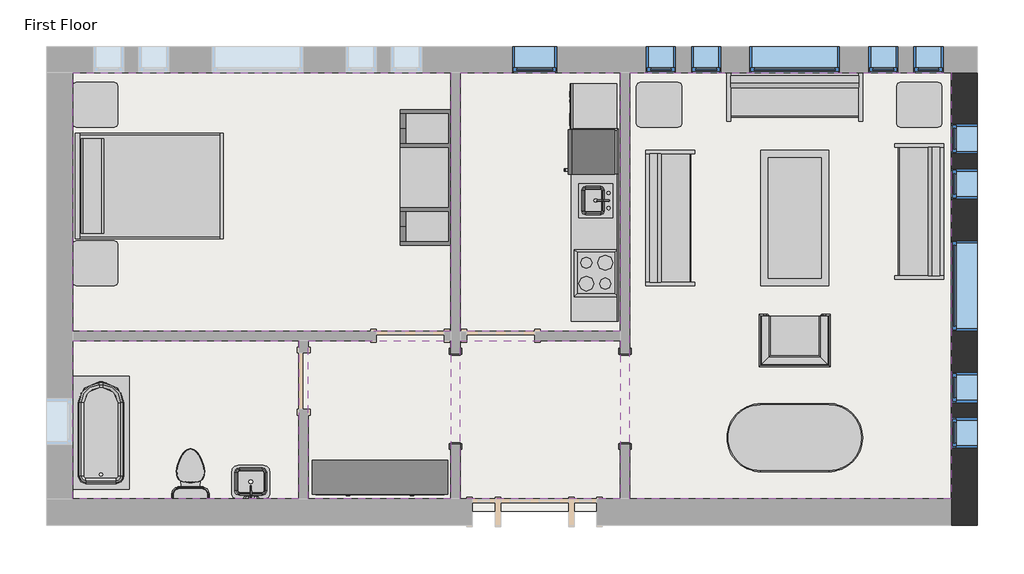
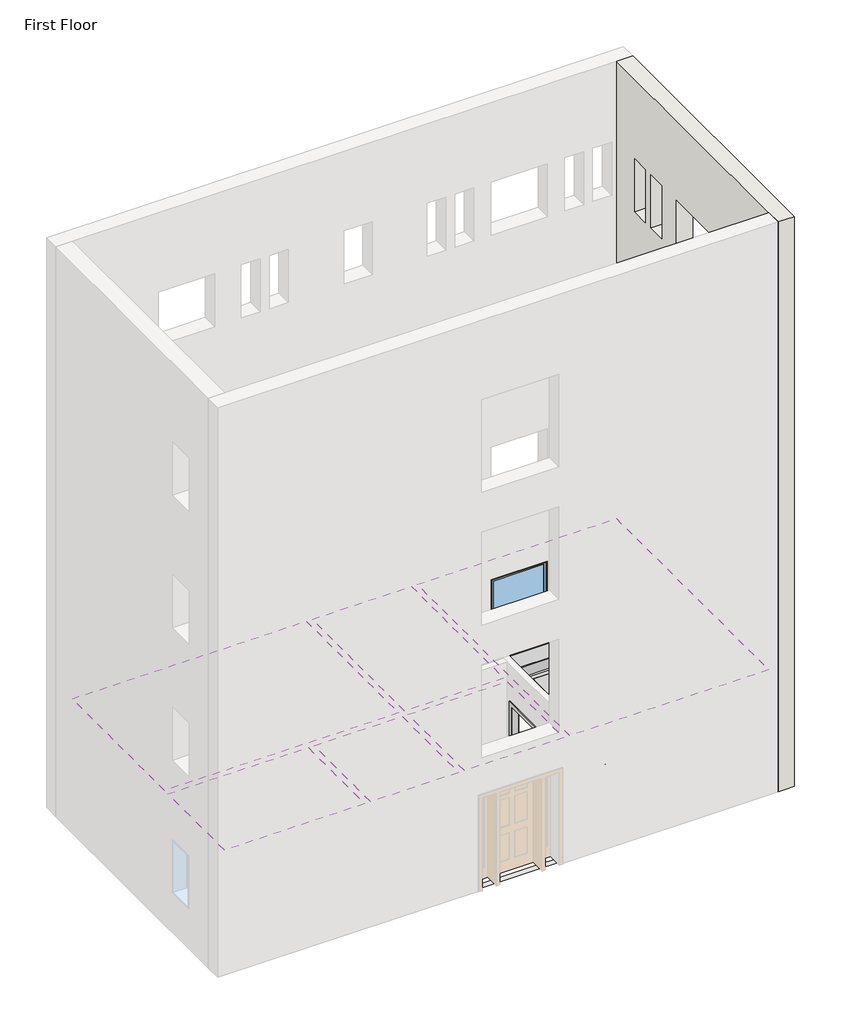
# One storey, part 2 of 2: 14 furniture elements, 11 windows, 6 coverings, 6 proxies, 4 flow terminals, 1 slab, 1 wall.
"""IFC4 building model written with IfcOpenShell, lengths in millimetres."""

from ifc_helpers import new_model, si_unit, frame, origin, place, context, project, spatial, polyline, outline, extrude, faceted_brep, transform, mapped, element, save
from components import proxy_dfcd9396, proxy_3c49123c, proxy_7a545507, proxy_f44482cc, proxy_ec3341c2, flow_terminal_41332a36, flow_terminal_62a433f7, toilet_domestic_3d_toilet_domestic_3d_f7549cf7, toilet_domestic_3d_toilet_domestic_3d_183bbd19, tub_rectangular_3d_tub_rectangular_3d_15036965, furniture_096e7f55, chair_corbu_chair_corbu_2764bdef, furniture_6db689a5, furniture_7c473f12, furniture_cf0b6580, furniture_a4ffab56, furniture_cd93a443, furniture_2c34a4f9, furniture_3a588284, window_da97879f, window_d61ef850, window_60baf983, window_6eb97611

model = new_model("IFC4")

# Units and contexts
model_context = context("Model", 3, world=origin())
ifc_project = project(units=[si_unit("LENGTHUNIT", "METRE", prefix="MILLI")], contexts=[model_context])

# Site, building, storey
site = spatial("IfcSite", under=ifc_project)
building = spatial("IfcBuilding", under=site)
storey = spatial("IfcBuildingStorey", under=building, Name="First Floor", Elevation=0.0)

# Proxies
placement = place(None, origin())
proxy_shape = proxy_dfcd9396(model_context)
element("IfcBuildingElementProxy", 1, Name="Cook Top-4 Unit2 : 22\" x 20\"", ObjectType="Cook Top-4 Unit2 : 22\" x 20\"", at=placement, inside=storey, context=model_context, shape_type="MappedRepresentation", body=[
    mapped(proxy_shape, transform((-4167.1589563, 7568.5224391, 0.0), x_axis=(0.0, 1.0000000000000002, 0.0), y_axis=(-1.0000000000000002, 0.0, 0.0), z_axis=(0.0, 0.0, 1.0))),
])
proxy_2_shape = proxy_3c49123c(model_context)
element("IfcBuildingElementProxy", 2, Name="Dishwasher : 24\" x 24\" x 34\"", ObjectType="Dishwasher : 24\" x 24\" x 34\"", at=placement, inside=storey, context=model_context, shape_type="MappedRepresentation", body=[
    mapped(proxy_2_shape, transform((-4459.0085211, 9434.1049706, 0.0), x_axis=(0.0, 1.0000000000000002, 0.0), y_axis=(-1.0000000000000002, 0.0, 0.0), z_axis=(0.0, 0.0, 1.0))),
])
proxy_3_shape = proxy_7a545507(model_context)
element("IfcBuildingElementProxy", 3, Name="Kitchenette - Medium : 8'6\"", ObjectType="Kitchenette - Medium : 8'6\"", at=placement, inside=storey, context=model_context, shape_type="MappedRepresentation", body=[
    mapped(proxy_3_shape, transform((-3862.3589563, 8197.4847342, 0.0), x_axis=(0.0, 1.0000000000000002, 0.0), y_axis=(-1.0000000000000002, 0.0, 0.0), z_axis=(0.0, 0.0, 1.0))),
])
proxy_4_shape = proxy_f44482cc(model_context)
element("IfcBuildingElementProxy", 4, Name="Opening-Cased : 48\" x 84\"", ObjectType="Opening-Cased : 48\" x 84\"", at=placement, inside=storey, context=model_context, shape_type="MappedRepresentation", body=[
    mapped(proxy_4_shape, transform((-3773.4589563, 5882.4203434, 0.0), x_axis=(0.0, 1.0, 0.0), y_axis=(-1.0, 0.0, 0.0), z_axis=(0.0, 0.0, 1.0))),
])
element("IfcBuildingElementProxy", 5, Name="Opening-Cased : 48\" x 84\"", ObjectType="Opening-Cased : 48\" x 84\"", at=placement, inside=storey, context=model_context, shape_type="MappedRepresentation", body=[
    mapped(proxy_4_shape, transform((-6059.4589563, 5866.04303, 0.0), x_axis=(0.0, -1.0, 0.0), y_axis=(1.0, 0.0, 0.0), z_axis=(0.0, 0.0, 1.0))),
])
proxy_5_shape = proxy_ec3341c2(model_context)
element("IfcBuildingElementProxy", 6, Name="Refrigerator : 24\" x 25\" LH", ObjectType="Refrigerator : 24\" x 25\" LH", at=placement, inside=storey, context=model_context, shape_type="MappedRepresentation", body=[
    mapped(proxy_5_shape, transform((-4212.8079278, 9200.4724391, 0.0), x_axis=(0.0, 1.0000000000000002, 0.0), y_axis=(-1.0000000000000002, 0.0, 0.0), z_axis=(0.0, 0.0, 1.0))),
])

# Coverings
element("IfcCovering", 7, ObjectType="GWB on Mtl. Stud", at=placement, inside=storey, context=model_context, shape_type="SweptSolid", body=[
    extrude(outline(polyline([(-11217.2464563, 10270.0191867), (-6122.9589563, 10270.0191867), (-6122.9589563, 6787.0441867), (-11217.2464563, 6787.0441867), (-11217.2464563, 10270.0191867)])), frame((0.0, 0.0, 2590.8), z_axis=(0.0, 0.0, 1.0), x_axis=(1.0, 0.0, 0.0)), (0.0, 0.0, 1.0), 107.95),
])
element("IfcCovering", 8, ObjectType="GWB on Mtl. Stud", at=placement, inside=storey, context=model_context, shape_type="SweptSolid", body=[
    extrude(outline(polyline([(-5995.9589563, 6787.0441867), (-5995.9589563, 10270.0191867), (-3836.9589563, 10270.0191867), (-3836.9589563, 6787.0441867), (-5995.9589563, 6787.0441867)])), frame((0.0, 0.0, 2590.8), z_axis=(0.0, 0.0, 1.0), x_axis=(1.0, 0.0, 0.0)), (0.0, 0.0, 1.0), 107.95),
])
element("IfcCovering", 9, ObjectType="GWB on Mtl. Stud", at=placement, inside=storey, context=model_context, shape_type="SweptSolid", body=[
    extrude(outline(polyline([(-3709.9589563, 4526.4441867), (-3709.9589563, 10270.0191867), (622.3285437, 10270.0191867), (622.3285437, 4526.4441867), (-3709.9589563, 4526.4441867)])), frame((0.0, 0.0, 2590.8), z_axis=(0.0, 0.0, 1.0), x_axis=(1.0, 0.0, 0.0)), (0.0, 0.0, 1.0), 107.95),
])
element("IfcCovering", 10, ObjectType="GWB on Mtl. Stud", at=placement, inside=storey, context=model_context, shape_type="SweptSolid", body=[
    extrude(outline(polyline([(-3836.9589563, 4526.4441867), (-5995.9589563, 4526.4441867), (-5995.9589563, 6660.0441867), (-3836.9589563, 6660.0441867), (-3836.9589563, 4526.4441867)])), frame((0.0, 0.0, 2590.8), z_axis=(0.0, 0.0, 1.0), x_axis=(1.0, 0.0, 0.0)), (0.0, 0.0, 1.0), 107.95),
])
element("IfcCovering", 11, ObjectType="GWB on Mtl. Stud", at=placement, inside=storey, context=model_context, shape_type="SweptSolid", body=[
    extrude(outline(polyline([(-8169.2464563, 6660.0441867), (-8169.2464563, 4526.4441867), (-11217.2464563, 4526.4441867), (-11217.2464563, 6660.0441867), (-8169.2464563, 6660.0441867)])), frame((0.0, 0.0, 2590.8), z_axis=(0.0, 0.0, 1.0), x_axis=(1.0, 0.0, 0.0)), (0.0, 0.0, 1.0), 107.95),
])
element("IfcCovering", 12, ObjectType="GWB on Mtl. Stud", at=placement, inside=storey, context=model_context, shape_type="SweptSolid", body=[
    extrude(outline(polyline([(-6122.9589563, 4526.4441867), (-8042.2464563, 4526.4441867), (-8042.2464563, 6660.0441867), (-6122.9589563, 6660.0441867), (-6122.9589563, 4526.4441867)])), frame((0.0, 0.0, 2590.8), z_axis=(0.0, 0.0, 1.0), x_axis=(1.0, 0.0, 0.0)), (0.0, 0.0, 1.0), 107.95),
])

# Flow terminals
flow_terminal_shape = flow_terminal_41332a36(model_context)
element("IfcFlowTerminal", 13, ObjectType="Sink Kitchen-Island : 18\" x 18\"", at=placement, inside=storey, context=model_context, shape_type="MappedRepresentation", body=[
    mapped(flow_terminal_shape, transform((-4169.5043574, 8530.7331986, -14.4), x_axis=(0.0, 1.0000000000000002, 0.0), y_axis=(-1.0000000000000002, 0.0, 0.0), z_axis=(0.0, 0.0, 1.0))),
])
flow_terminal_2_shape = flow_terminal_62a433f7(model_context)
element("IfcFlowTerminal", 14, ObjectType="Sink Vanity-Square : 20\" x 18\"", at=placement, inside=storey, context=model_context, shape_type="MappedRepresentation", body=[
    mapped(flow_terminal_2_shape, transform((-8801.2572158, 4706.5895878, 0.0), x_axis=(-1.0, 0.0, 0.0), y_axis=(0.0, -1.0, 0.0), z_axis=(0.0, 0.0, 1.0))),
])
toilet_domestic_3d_toilet_domestic_3d_shape = toilet_domestic_3d_toilet_domestic_3d_f7549cf7(model_context)
toilet_domestic_3d_toilet_domestic_3d_2_shape = toilet_domestic_3d_toilet_domestic_3d_183bbd19(model_context)
element("IfcFlowTerminal", 15, ObjectType="Toilet-Domestic-3D : Toilet-Domestic-3D", at=placement, inside=storey, context=model_context, shape_type="MappedRepresentation", body=[
    mapped(toilet_domestic_3d_toilet_domestic_3d_shape, transform((-9629.7464563, 4894.7441867, 0.0), x_axis=(-1.0, 0.0, 0.0), y_axis=(0.0, -1.0, 0.0), z_axis=(0.0, 0.0, 1.0))),
    mapped(toilet_domestic_3d_toilet_domestic_3d_2_shape, transform((-9629.7464563, 4894.7441867, 0.0), x_axis=(-1.0, 0.0, 0.0), y_axis=(0.0, -1.0, 0.0), z_axis=(0.0, 0.0, 1.0))),
])
tub_rectangular_3d_tub_rectangular_3d_shape = tub_rectangular_3d_tub_rectangular_3d_15036965(model_context)
element("IfcFlowTerminal", 16, ObjectType="Tub-Rectangular-3D : Tub-Rectangular-3D", at=placement, inside=storey, context=model_context, shape_type="MappedRepresentation", body=[
    mapped(tub_rectangular_3d_tub_rectangular_3d_shape, transform((-11393.4589563, 5765.6346554, 0.0), x_axis=(0.0, 1.0, 0.0), y_axis=(-1.0, 0.0, 0.0), z_axis=(0.0, 0.0, 1.0))),
])

# Furniture
furniture_shape = furniture_096e7f55(model_context)
element("IfcFurniture", 17, ObjectType="Bed-Shaker : Double 56\" x 78\"", at=placement, inside=storey, context=model_context, shape_type="MappedRepresentation", body=[
    mapped(furniture_shape, transform((-11172.0857802, 8763.4816867, 0.0), x_axis=(0.0, 1.0, 0.0), y_axis=(-1.0, 0.0, 0.0), z_axis=(0.0, 0.0, 1.0))),
])
chair_corbu_chair_corbu_shape = chair_corbu_chair_corbu_2764bdef(model_context)
element("IfcFurniture", 18, ObjectType="Chair-Corbu : Chair-Corbu", at=placement, inside=storey, context=model_context, shape_type="MappedRepresentation", body=[
    mapped(chair_corbu_chair_corbu_shape, transform((-914.0851858, 7126.8212359, 0.0), x_axis=(-1.0, 0.0, 0.0), y_axis=(0.0, -1.0, 0.0), z_axis=(0.0, 0.0, 1.0))),
])
furniture_2_shape = furniture_6db689a5(model_context)
element("IfcFurniture", 19, ObjectType="Counter Top w Sink Hole : 24\" Depth", at=placement, inside=storey, context=model_context, shape_type="MappedRepresentation", body=[
    mapped(furniture_2_shape, transform((-3862.3589563, 8121.2847342, -14.4), x_axis=(0.0, 1.0000000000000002, 0.0), y_axis=(-1.0000000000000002, 0.0, 0.0), z_axis=(0.0, 0.0, 1.0))),
])
furniture_3_shape = furniture_7c473f12(model_context)
element("IfcFurniture", 20, ObjectType="Dresser : 72\" x 60\" x 18\"", at=placement, inside=storey, context=model_context, shape_type="MappedRepresentation", body=[
    mapped(furniture_3_shape, transform((-6806.2656965, 5181.7071408, 0.0), x_axis=(1.0, 0.0, 0.0), y_axis=(0.0, 1.0, 0.0), z_axis=(0.0, 0.0, 1.0))),
])
furniture_4_shape = furniture_cf0b6580(model_context)
element("IfcFurniture", 21, ObjectType="Entertainment Center : 72\" x 72\" x 24\"", at=placement, inside=storey, context=model_context, shape_type="MappedRepresentation", body=[
    mapped(furniture_4_shape, transform((-6021.3589563, 8857.1441867, 0.0), x_axis=(0.0, -1.0, 0.0), y_axis=(1.0, 0.0, 0.0), z_axis=(0.0, 0.0, 1.0))),
])
furniture_5_shape = furniture_a4ffab56(model_context)
element("IfcFurniture", 22, ObjectType="Sofa : 72\"", at=placement, inside=storey, context=model_context, shape_type="MappedRepresentation", body=[
    mapped(furniture_5_shape, transform((-3017.704858, 8242.2611949, 0.0), x_axis=(0.0, 1.0, 0.0), y_axis=(-1.0, 0.0, 0.0), z_axis=(0.0, 0.0, 1.0))),
])
element("IfcFurniture", 23, ObjectType="Sofa : 72\"", at=placement, inside=storey, context=model_context, shape_type="MappedRepresentation", body=[
    mapped(furniture_5_shape, transform((-1557.8294481, 9801.5748071, 0.0), x_axis=(1.0, 0.0, 0.0), y_axis=(0.0, 1.0, 0.0), z_axis=(0.0, 0.0, 1.0))),
])
element("IfcFurniture", 24, ObjectType="Sofa : 72\"", at=placement, inside=storey, context=model_context, shape_type="MappedRepresentation", body=[
    mapped(furniture_5_shape, transform((42.7869453, 8470.3146785, 0.0), x_axis=(0.0, -1.0, 0.0), y_axis=(1.0, 0.0, 0.0), z_axis=(0.0, 0.0, 1.0))),
])
furniture_6_shape = furniture_cd93a443(model_context)
element("IfcFurniture", 25, ObjectType="Table-Coffee : 36\" x 72\" x 18\"", at=placement, inside=storey, context=model_context, shape_type="MappedRepresentation", body=[
    mapped(furniture_6_shape, transform((-1392.2478785, 8294.36592, 0.0), x_axis=(0.0, 1.0, 0.0), y_axis=(-1.0, 0.0, 0.0), z_axis=(0.0, 0.0, 1.0))),
])
furniture_7_shape = furniture_2c34a4f9(model_context)
element("IfcFurniture", 26, ObjectType="Table-Dining Oval : 36\" x 72\"", at=placement, inside=storey, context=model_context, shape_type="MappedRepresentation", body=[
    mapped(furniture_7_shape, transform((-1085.6392842, 5710.0425473, 0.0), x_axis=(1.0, 0.0, 0.0), y_axis=(0.0, 1.0, 0.0), z_axis=(0.0, 0.0, 1.0))),
])
furniture_8_shape = furniture_3a588284(model_context)
element("IfcFurniture", 27, ObjectType="Table-End : 24\" x 24\"", at=placement, inside=storey, context=model_context, shape_type="MappedRepresentation", body=[
    mapped(furniture_8_shape, transform((-119.5925866, 9684.2316867, 0.0), x_axis=(1.0, 0.0, 0.0), y_axis=(0.0, 1.0, 0.0), z_axis=(0.0, 0.0, 1.0))),
])
element("IfcFurniture", 28, ObjectType="Table-End : 24\" x 24\"", at=placement, inside=storey, context=model_context, shape_type="MappedRepresentation", body=[
    mapped(furniture_8_shape, transform((-11220.9800866, 7550.6316867, 0.0), x_axis=(1.0, 0.0, 0.0), y_axis=(0.0, 1.0, 0.0), z_axis=(0.0, 0.0, 1.0))),
])
element("IfcFurniture", 29, ObjectType="Table-End : 24\" x 24\"", at=placement, inside=storey, context=model_context, shape_type="MappedRepresentation", body=[
    mapped(furniture_8_shape, transform((-11220.9800866, 9684.2316867, 0.0), x_axis=(1.0, 0.0, 0.0), y_axis=(0.0, 1.0, 0.0), z_axis=(0.0, 0.0, 1.0))),
])
element("IfcFurniture", 30, ObjectType="Table-End : 24\" x 24\"", at=placement, inside=storey, context=model_context, shape_type="MappedRepresentation", body=[
    mapped(furniture_8_shape, transform((-3624.7925866, 9684.2316867, 0.0), x_axis=(1.0, 0.0, 0.0), y_axis=(0.0, 1.0, 0.0), z_axis=(0.0, 0.0, 1.0))),
])

# Slab
element("IfcSlab", 31, ObjectType="LW Concrete on Metal Deck", at=placement, inside=storey, context=model_context, shape_type="SweptSolid", body=[
    extrude(outline(polyline([(787.4285437, 10435.1191867), (787.4285437, 4361.3441867), (-11382.3464563, 4361.3441867), (-11382.3464563, 10435.1191867), (787.4285437, 10435.1191867)])), frame((0.0, 0.0, -104.775), z_axis=(0.0, 0.0, 1.0), x_axis=(1.0, 0.0, 0.0)), (0.0, 0.0, 1.0), 104.775),
])

# Wall
element("IfcWall", 32, ObjectType="Exterior - Brick on Mtl. Stud", at=placement, inside=storey, context=model_context, shape_type="Brep", body=[
    faceted_brep([(622.3285437, 10270.0191867, 13106.4), (622.3285437, 4526.4441867, 13106.4), (622.3285437, 4174.0191867, 13106.4), (974.7535437, 4174.0191867, 13106.4), (974.7535437, 10270.0191867, 13106.4), (622.3285437, 10270.0191867, 0.0), (622.3285437, 4526.4441867, 0.0), (622.3285437, 4361.3441867, 0.0), (622.3285437, 4174.0191867, 0.0), (622.3285437, 8007.8316867, 2133.6), (622.3285437, 6788.6316867, 2133.6), (622.3285437, 6788.6316867, 914.4), (622.3285437, 8007.8316867, 914.4), (622.3285437, 9582.6316867, 2133.6), (622.3285437, 9176.2316867, 2133.6), (622.3285437, 9176.2316867, 914.4), (622.3285437, 9582.6316867, 914.4), (622.3285437, 8973.0316867, 2133.6), (622.3285437, 8566.6316867, 2133.6), (622.3285437, 8566.6316867, 914.4), (622.3285437, 8973.0316867, 914.4), (622.3285437, 5213.8316867, 2133.6), (622.3285437, 5213.8316867, 914.4), (622.3285437, 5620.2316867, 914.4), (622.3285437, 5620.2316867, 2133.6), (622.3285437, 5823.4316867, 2133.6), (622.3285437, 5823.4316867, 914.4), (622.3285437, 6229.8316867, 914.4), (622.3285437, 6229.8316867, 2133.6), (622.3285437, 5823.4316867, 11277.6), (622.3285437, 5823.4316867, 10058.4), (622.3285437, 6229.8316867, 10058.4), (622.3285437, 6229.8316867, 11277.6), (622.3285437, 5213.8316867, 11277.6), (622.3285437, 5213.8316867, 10058.4), (622.3285437, 5620.2316867, 10058.4), (622.3285437, 5620.2316867, 11277.6), (622.3285437, 8973.0316867, 11277.6), (622.3285437, 8566.6316867, 11277.6), (622.3285437, 8566.6316867, 10058.4), (622.3285437, 8973.0316867, 10058.4), (622.3285437, 9582.6316867, 11277.6), (622.3285437, 9176.2316867, 11277.6), (622.3285437, 9176.2316867, 10058.4), (622.3285437, 9582.6316867, 10058.4), (622.3285437, 8007.8316867, 11277.6), (622.3285437, 6788.6316867, 11277.6), (622.3285437, 6788.6316867, 10058.4), (622.3285437, 8007.8316867, 10058.4), (622.3285437, 5823.4316867, 5181.6), (622.3285437, 5823.4316867, 3962.4), (622.3285437, 6229.8316867, 3962.4), (622.3285437, 6229.8316867, 5181.6), (622.3285437, 5213.8316867, 5181.6), (622.3285437, 5213.8316867, 3962.4), (622.3285437, 5620.2316867, 3962.4), (622.3285437, 5620.2316867, 5181.6), (622.3285437, 8973.0316867, 5181.6), (622.3285437, 8566.6316867, 5181.6), (622.3285437, 8566.6316867, 3962.4), (622.3285437, 8973.0316867, 3962.4), (622.3285437, 9582.6316867, 5181.6), (622.3285437, 9176.2316867, 5181.6), (622.3285437, 9176.2316867, 3962.4), (622.3285437, 9582.6316867, 3962.4), (622.3285437, 8007.8316867, 5181.6), (622.3285437, 6788.6316867, 5181.6), (622.3285437, 6788.6316867, 3962.4), (622.3285437, 8007.8316867, 3962.4), (622.3285437, 5823.4316867, 8229.6), (622.3285437, 5823.4316867, 7010.4), (622.3285437, 6229.8316867, 7010.4), (622.3285437, 6229.8316867, 8229.6), (622.3285437, 5213.8316867, 8229.6), (622.3285437, 5213.8316867, 7010.4), (622.3285437, 5620.2316867, 7010.4), (622.3285437, 5620.2316867, 8229.6), (622.3285437, 8973.0316867, 8229.6), (622.3285437, 8566.6316867, 8229.6), (622.3285437, 8566.6316867, 7010.4), (622.3285437, 8973.0316867, 7010.4), (622.3285437, 9582.6316867, 8229.6), (622.3285437, 9176.2316867, 8229.6), (622.3285437, 9176.2316867, 7010.4), (622.3285437, 9582.6316867, 7010.4), (622.3285437, 8007.8316867, 8229.6), (622.3285437, 6788.6316867, 8229.6), (622.3285437, 6788.6316867, 7010.4), (622.3285437, 8007.8316867, 7010.4), (974.7535437, 10270.0191867, 0.0), (974.7535437, 4174.0191867, 0.0), (974.7535437, 4361.3441867, 0.0), (974.7535437, 8007.8316867, 2133.6), (974.7535437, 8007.8316867, 914.4), (974.7535437, 6788.6316867, 914.4), (974.7535437, 6788.6316867, 2133.6), (974.7535437, 9582.6316867, 2133.6), (974.7535437, 9582.6316867, 914.4), (974.7535437, 9176.2316867, 914.4), (974.7535437, 9176.2316867, 2133.6), (974.7535437, 8973.0316867, 2133.6), (974.7535437, 8973.0316867, 914.4), (974.7535437, 8566.6316867, 914.4), (974.7535437, 8566.6316867, 2133.6), (974.7535437, 5213.8316867, 2133.6), (974.7535437, 5620.2316867, 2133.6), (974.7535437, 5620.2316867, 914.4), (974.7535437, 5213.8316867, 914.4), (974.7535437, 5823.4316867, 2133.6), (974.7535437, 6229.8316867, 2133.6), (974.7535437, 6229.8316867, 914.4), (974.7535437, 5823.4316867, 914.4), (974.7535437, 5823.4316867, 11277.6), (974.7535437, 6229.8316867, 11277.6), (974.7535437, 6229.8316867, 10058.4), (974.7535437, 5823.4316867, 10058.4), (974.7535437, 5213.8316867, 11277.6), (974.7535437, 5620.2316867, 11277.6), (974.7535437, 5620.2316867, 10058.4), (974.7535437, 5213.8316867, 10058.4), (974.7535437, 8973.0316867, 11277.6), (974.7535437, 8973.0316867, 10058.4), (974.7535437, 8566.6316867, 10058.4), (974.7535437, 8566.6316867, 11277.6), (974.7535437, 9582.6316867, 11277.6), (974.7535437, 9582.6316867, 10058.4), (974.7535437, 9176.2316867, 10058.4), (974.7535437, 9176.2316867, 11277.6), (974.7535437, 8007.8316867, 11277.6), (974.7535437, 8007.8316867, 10058.4), (974.7535437, 6788.6316867, 10058.4), (974.7535437, 6788.6316867, 11277.6), (974.7535437, 5823.4316867, 5181.6), (974.7535437, 6229.8316867, 5181.6), (974.7535437, 6229.8316867, 3962.4), (974.7535437, 5823.4316867, 3962.4), (974.7535437, 5213.8316867, 5181.6), (974.7535437, 5620.2316867, 5181.6), (974.7535437, 5620.2316867, 3962.4), (974.7535437, 5213.8316867, 3962.4), (974.7535437, 8973.0316867, 5181.6), (974.7535437, 8973.0316867, 3962.4), (974.7535437, 8566.6316867, 3962.4), (974.7535437, 8566.6316867, 5181.6), (974.7535437, 9582.6316867, 5181.6), (974.7535437, 9582.6316867, 3962.4), (974.7535437, 9176.2316867, 3962.4), (974.7535437, 9176.2316867, 5181.6), (974.7535437, 8007.8316867, 5181.6), (974.7535437, 8007.8316867, 3962.4), (974.7535437, 6788.6316867, 3962.4), (974.7535437, 6788.6316867, 5181.6), (974.7535437, 5823.4316867, 8229.6), (974.7535437, 6229.8316867, 8229.6), (974.7535437, 6229.8316867, 7010.4), (974.7535437, 5823.4316867, 7010.4), (974.7535437, 5213.8316867, 8229.6), (974.7535437, 5620.2316867, 8229.6), (974.7535437, 5620.2316867, 7010.4), (974.7535437, 5213.8316867, 7010.4), (974.7535437, 8973.0316867, 8229.6), (974.7535437, 8973.0316867, 7010.4), (974.7535437, 8566.6316867, 7010.4), (974.7535437, 8566.6316867, 8229.6), (974.7535437, 9582.6316867, 8229.6), (974.7535437, 9582.6316867, 7010.4), (974.7535437, 9176.2316867, 7010.4), (974.7535437, 9176.2316867, 8229.6), (974.7535437, 8007.8316867, 8229.6), (974.7535437, 8007.8316867, 7010.4), (974.7535437, 6788.6316867, 7010.4), (974.7535437, 6788.6316867, 8229.6), (787.4285437, 10270.0191867, 0.0), (787.4285437, 4174.0191867, 0.0), (787.4285437, 4361.3441867, 0.0)], [[[0, 1, 2, 3, 4]], [[5, 6, 7, 8, 2, 1, 0], [9, 10, 11, 12], [13, 14, 15, 16], [17, 18, 19, 20], [21, 22, 23, 24], [25, 26, 27, 28], [29, 30, 31, 32], [33, 34, 35, 36], [37, 38, 39, 40], [41, 42, 43, 44], [45, 46, 47, 48], [49, 50, 51, 52], [53, 54, 55, 56], [57, 58, 59, 60], [61, 62, 63, 64], [65, 66, 67, 68], [69, 70, 71, 72], [73, 74, 75, 76], [77, 78, 79, 80], [81, 82, 83, 84], [85, 86, 87, 88]], [[89, 4, 3, 90, 91], [92, 93, 94, 95], [96, 97, 98, 99], [100, 101, 102, 103], [104, 105, 106, 107], [108, 109, 110, 111], [112, 113, 114, 115], [116, 117, 118, 119], [120, 121, 122, 123], [124, 125, 126, 127], [128, 129, 130, 131], [132, 133, 134, 135], [136, 137, 138, 139], [140, 141, 142, 143], [144, 145, 146, 147], [148, 149, 150, 151], [152, 153, 154, 155], [156, 157, 158, 159], [160, 161, 162, 163], [164, 165, 166, 167], [168, 169, 170, 171]], [[5, 0, 4, 89, 172]], [[2, 8, 173, 90, 3]], [[93, 92, 9, 12]], [[94, 93, 12, 11]], [[95, 94, 11, 10]], [[92, 95, 10, 9]], [[97, 96, 13, 16]], [[98, 97, 16, 15]], [[99, 98, 15, 14]], [[96, 99, 14, 13]], [[101, 100, 17, 20]], [[102, 101, 20, 19]], [[103, 102, 19, 18]], [[100, 103, 18, 17]], [[22, 21, 104, 107]], [[23, 22, 107, 106]], [[24, 23, 106, 105]], [[21, 24, 105, 104]], [[26, 25, 108, 111]], [[27, 26, 111, 110]], [[28, 27, 110, 109]], [[25, 28, 109, 108]], [[172, 89, 91, 174]], [[8, 7, 174, 173]], [[174, 91, 90, 173]], [[7, 6, 5, 172, 174]], [[30, 29, 112, 115]], [[31, 30, 115, 114]], [[32, 31, 114, 113]], [[29, 32, 113, 112]], [[34, 33, 116, 119]], [[35, 34, 119, 118]], [[36, 35, 118, 117]], [[33, 36, 117, 116]], [[121, 120, 37, 40]], [[122, 121, 40, 39]], [[123, 122, 39, 38]], [[120, 123, 38, 37]], [[125, 124, 41, 44]], [[126, 125, 44, 43]], [[127, 126, 43, 42]], [[124, 127, 42, 41]], [[129, 128, 45, 48]], [[130, 129, 48, 47]], [[131, 130, 47, 46]], [[128, 131, 46, 45]], [[50, 49, 132, 135]], [[51, 50, 135, 134]], [[52, 51, 134, 133]], [[49, 52, 133, 132]], [[54, 53, 136, 139]], [[55, 54, 139, 138]], [[56, 55, 138, 137]], [[53, 56, 137, 136]], [[141, 140, 57, 60]], [[142, 141, 60, 59]], [[143, 142, 59, 58]], [[140, 143, 58, 57]], [[145, 144, 61, 64]], [[146, 145, 64, 63]], [[147, 146, 63, 62]], [[144, 147, 62, 61]], [[149, 148, 65, 68]], [[150, 149, 68, 67]], [[151, 150, 67, 66]], [[148, 151, 66, 65]], [[70, 69, 152, 155]], [[71, 70, 155, 154]], [[72, 71, 154, 153]], [[69, 72, 153, 152]], [[74, 73, 156, 159]], [[75, 74, 159, 158]], [[76, 75, 158, 157]], [[73, 76, 157, 156]], [[161, 160, 77, 80]], [[162, 161, 80, 79]], [[163, 162, 79, 78]], [[160, 163, 78, 77]], [[165, 164, 81, 84]], [[166, 165, 84, 83]], [[167, 166, 83, 82]], [[164, 167, 82, 81]], [[169, 168, 85, 88]], [[170, 169, 88, 87]], [[171, 170, 87, 86]], [[168, 171, 86, 85]]]),
])

# Windows
window_shape = window_da97879f(model_context)
element("IfcWindow", 33, ObjectType="Fixed : 16\" x 48\"", at=placement, inside=storey, context=model_context, shape_type="MappedRepresentation", body=[
    mapped(window_shape, transform((-3328.9589563, 10446.2316867, 0.0), x_axis=(-1.0, 0.0, 0.0), y_axis=(0.0, -1.0, 0.0), z_axis=(0.0, 0.0, 1.0))),
])
element("IfcWindow", 34, ObjectType="Fixed : 16\" x 48\"", at=placement, inside=storey, context=model_context, shape_type="MappedRepresentation", body=[
    mapped(window_shape, transform((-2719.3589563, 10446.2316867, 0.0), x_axis=(-1.0, 0.0, 0.0), y_axis=(0.0, -1.0, 0.0), z_axis=(0.0, 0.0, 1.0))),
])
element("IfcWindow", 35, ObjectType="Fixed : 16\" x 48\"", at=placement, inside=storey, context=model_context, shape_type="MappedRepresentation", body=[
    mapped(window_shape, transform((798.5410437, 9417.5316867, 0.0), x_axis=(0.0, 1.0, 0.0), y_axis=(-1.0, 0.0, 0.0), z_axis=(0.0, 0.0, 1.0))),
])
element("IfcWindow", 36, ObjectType="Fixed : 16\" x 48\"", at=placement, inside=storey, context=model_context, shape_type="MappedRepresentation", body=[
    mapped(window_shape, transform((798.5410437, 8807.9316867, 0.0), x_axis=(0.0, 1.0, 0.0), y_axis=(-1.0, 0.0, 0.0), z_axis=(0.0, 0.0, 1.0))),
])
window_2_shape = window_d61ef850(model_context)
element("IfcWindow", 37, ObjectType="Fixed : 16\" x 48\"", at=placement, inside=storey, context=model_context, shape_type="MappedRepresentation", body=[
    mapped(window_2_shape, transform((354.0410437, 10446.2316867, 0.0), x_axis=(1.0, 0.0, 0.0), y_axis=(0.0, 1.0, 0.0), z_axis=(0.0, 0.0, 1.0))),
])
element("IfcWindow", 38, ObjectType="Fixed : 16\" x 48\"", at=placement, inside=storey, context=model_context, shape_type="MappedRepresentation", body=[
    mapped(window_2_shape, transform((-255.5589563, 10446.2316867, 0.0), x_axis=(1.0, 0.0, 0.0), y_axis=(0.0, 1.0, 0.0), z_axis=(0.0, 0.0, 1.0))),
])
element("IfcWindow", 39, ObjectType="Fixed : 16\" x 48\"", at=placement, inside=storey, context=model_context, shape_type="MappedRepresentation", body=[
    mapped(window_2_shape, transform((798.5410437, 5378.9316867, 0.0), x_axis=(0.0, -1.0, 0.0), y_axis=(1.0, 0.0, 0.0), z_axis=(0.0, 0.0, 1.0))),
])
element("IfcWindow", 40, ObjectType="Fixed : 16\" x 48\"", at=placement, inside=storey, context=model_context, shape_type="MappedRepresentation", body=[
    mapped(window_2_shape, transform((798.5410437, 5988.5316867, 0.0), x_axis=(0.0, -1.0, 0.0), y_axis=(1.0, 0.0, 0.0), z_axis=(0.0, 0.0, 1.0))),
])
window_3_shape = window_60baf983(model_context)
element("IfcWindow", 41, ObjectType="Fixed : 24\" x 48\"", at=placement, inside=storey, context=model_context, shape_type="MappedRepresentation", body=[
    mapped(window_3_shape, transform((-5030.7589563, 10446.2316867, 0.0), x_axis=(-1.0, 0.0, 0.0), y_axis=(0.0, -1.0, 0.0), z_axis=(0.0, 0.0, 1.0))),
])
window_4_shape = window_6eb97611(model_context)
element("IfcWindow", 42, ObjectType="Fixed : 48\" x 48\"", at=placement, inside=storey, context=model_context, shape_type="MappedRepresentation", body=[
    mapped(window_4_shape, transform((-1525.5589563, 10446.2316867, 0.0), x_axis=(-1.0, 0.0, 0.0), y_axis=(0.0, -1.0, 0.0), z_axis=(0.0, 0.0, 1.0))),
])
element("IfcWindow", 43, ObjectType="Fixed : 48\" x 48\"", at=placement, inside=storey, context=model_context, shape_type="MappedRepresentation", body=[
    mapped(window_4_shape, transform((798.5410437, 7436.3316867, 0.0), x_axis=(0.0, 1.0, 0.0), y_axis=(-1.0, 0.0, 0.0), z_axis=(0.0, 0.0, 1.0))),
])

save(model, "model.ifc")
